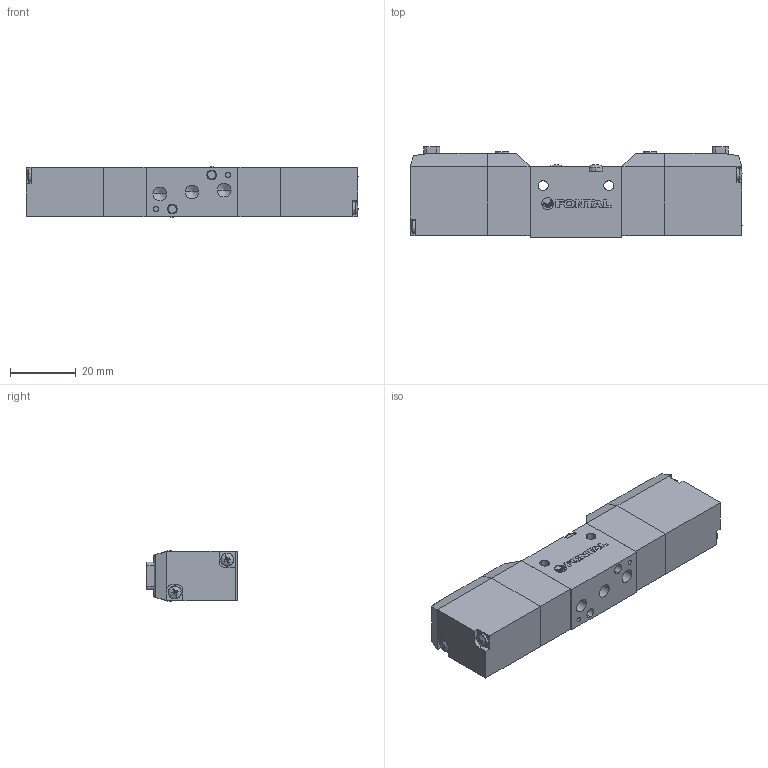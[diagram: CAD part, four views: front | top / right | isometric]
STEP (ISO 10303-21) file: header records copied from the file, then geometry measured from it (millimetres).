
FILE_DESCRIPTION (( 'STEP AP203' ), '1' );
FILE_NAME ('RCD245#-M5-#-L-#.STEP', '2016-02-04T05:19:29', ( 'Sam Lin' ), ( '' ), 'SwSTEP 2.0', 'SolidWorks 2013', '' );
FILE_SCHEMA (( 'CONFIG_CONTROL_DESIGN' ));
Length unit declared in the file: metre
Products named in the file (8): RCS-1; PC-MARK; PC5-5; PC5-6; PC5-4; ISO 7045 - M2 x 10; ISO 7045 - M2.5 x 25; RCD245#-M5-#-L-#
Assembly tree (14 placements, depth 2):
  RCD245#-M5-#-L-#
    RCS-1
    PC-MARK
    PC5-5  x2
    PC5-6  x2
    PC5-4  x2
    ISO 7045 - M2 x 10  x4
    ISO 7045 - M2.5 x 25  x2
Bounding box: 101.14 x 27.5 x 15.4 mm (x, y, z)
Volume: 34297.9 mm3; surface area: 14495.7 mm2
Topology: 20 solids, 20 shells, 512 faces, 1254 edges, 779 vertices
Faces by surface type: plane 285, cylinder 111, cone 72, bspline 44
Entity records: 9716 total; most frequent: CARTESIAN_POINT 2023, ORIENTED_EDGE 1384, DIRECTION 1372, EDGE_CURVE 692, AXIS2_PLACEMENT_3D 483, VERTEX_POINT 446, LINE 406, VECTOR 406
